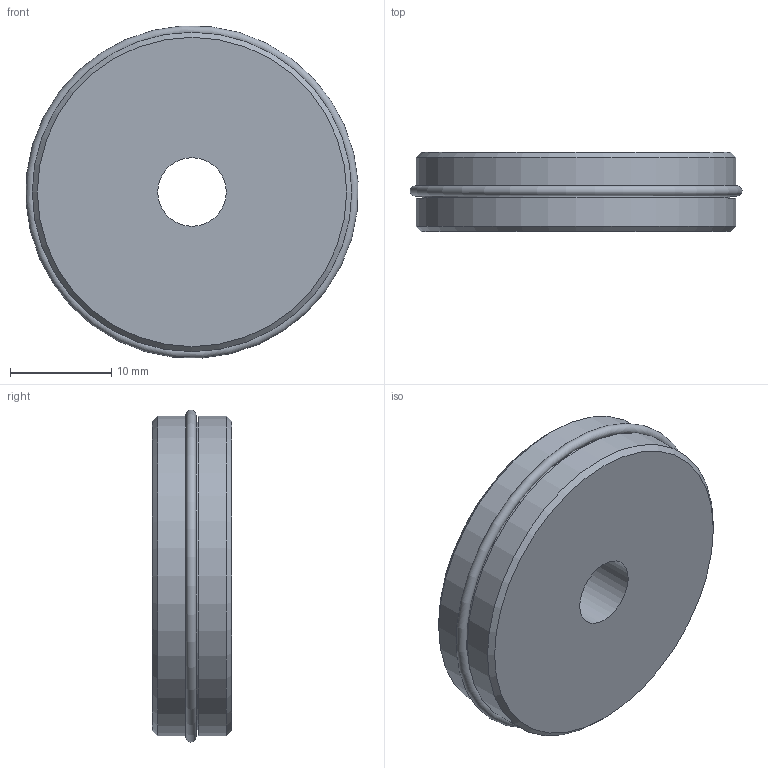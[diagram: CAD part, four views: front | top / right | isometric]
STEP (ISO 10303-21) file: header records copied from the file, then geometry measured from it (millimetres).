
FILE_DESCRIPTION(/* description */ (''),/* implementation_level */ '2;1');
FILE_NAME(/* name */ '\\dc01\daten\CAD\Standard\Daten\3D-Datenbank\ZS\step-Daten\G-ZS063-1.stp',/* time_stamp */ '2019-03-22T09:31:43+01:00',/* author */ ('ysplieth'),/* organization */ (''),/* preprocessor_version */ 'ST-DEVELOPER v17',/* originating_system */ 'Autodesk Inventor 2018',/* authorisation */ '');
FILE_SCHEMA (('AUTOMOTIVE_DESIGN { 1 0 10303 214 3 1 1 }'));
Length unit declared in the file: millimetre
Products named in the file (1): Bauteil1
Bounding box: 32.74 x 7.8 x 32.74 mm (x, y, z)
Volume: 5783.6 mm3; surface area: 2791.5 mm2
Topology: 2 solids, 2 shells, 11 faces, 25 edges, 18 vertices
Faces by surface type: cylinder 4, plane 4, cone 2, torus 1
Full cylindrical faces by diameter (mm): 6.75 x1, 30.3 x1, 31.5 x2
Entity records: 401 total; most frequent: DIRECTION 68, CARTESIAN_POINT 55, ORIENTED_EDGE 50, AXIS2_PLACEMENT_3D 31, EDGE_CURVE 25, CIRCLE 19, VERTEX_POINT 18, EDGE_LOOP 15
